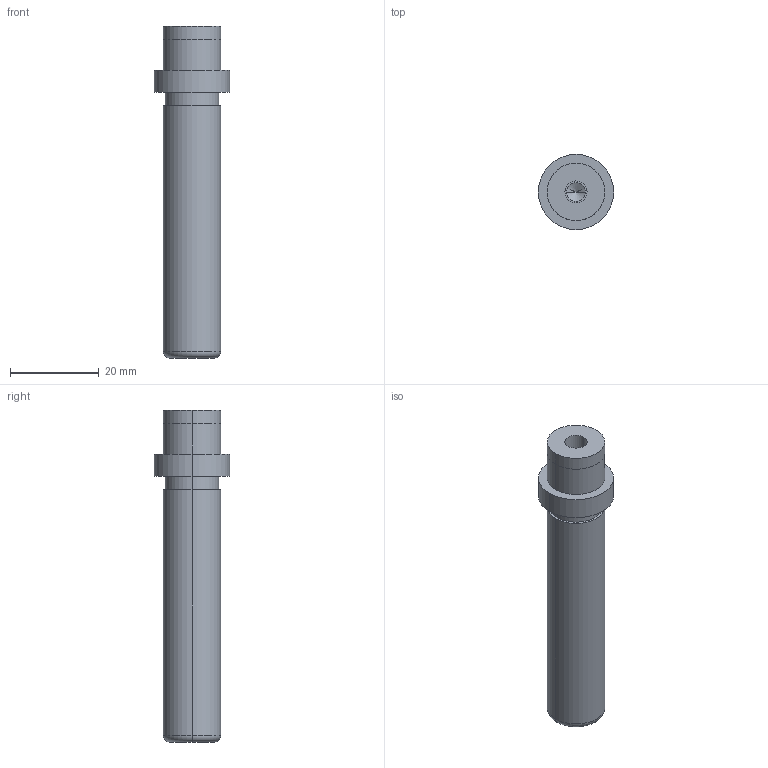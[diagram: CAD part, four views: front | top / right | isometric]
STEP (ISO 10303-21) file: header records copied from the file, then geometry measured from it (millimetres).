
FILE_DESCRIPTION(/* description */ (''),/* implementation_level */ '2;1');
FILE_NAME(/* name */ '3d_sgpw13-65_05280_r00.stp',/* time_stamp */ '2011-01-10T14:11:05+09:00',/* author */ ('MISUMI'),/* organization */ (''),/* preprocessor_version */ 'ST-DEVELOPER v11',/* originating_system */ 'UGS - NX 5.0',/* authorisation */ '');
FILE_SCHEMA (('CONFIG_CONTROL_DESIGN'));
Length unit declared in the file: millimetre
Products named in the file (1): 3d_sgpw13-65_05280_r00
Bounding box: 17 x 17 x 75 mm (x, y, z)
Volume: 9791.1 mm3; surface area: 4032.2 mm2
Topology: 1 solids, 1 shells, 31 faces, 64 edges, 38 vertices
Faces by surface type: cylinder 18, plane 7, cone 4, torus 2
Entity records: 890 total; most frequent: DIRECTION 162, CARTESIAN_POINT 130, ORIENTED_EDGE 120, AXIS2_PLACEMENT_3D 70, EDGE_CURVE 60, EDGE_LOOP 38, CIRCLE 38, VERTEX_POINT 38
